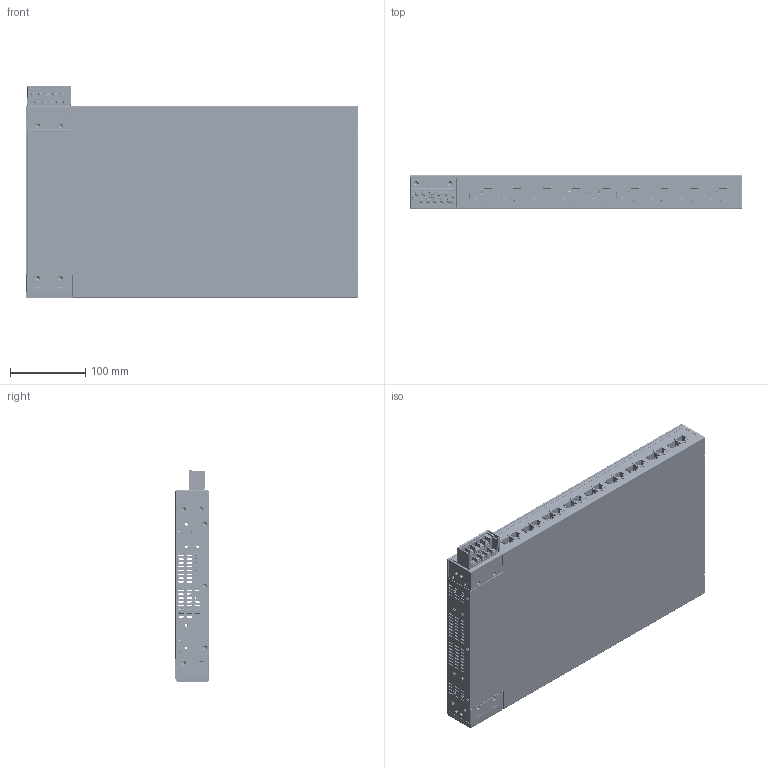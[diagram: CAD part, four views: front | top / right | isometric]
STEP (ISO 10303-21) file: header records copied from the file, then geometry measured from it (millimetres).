
FILE_DESCRIPTION((''),'2;1');
FILE_NAME('PT-7509_R','2010-09-24T',('Chialu_Chang'),(''),'PRO/ENGINEER BY PARAMETRIC TECHNOLOGY CORPORATION, 2004440','PRO/ENGINEER BY PARAMETRIC TECHNOLOGY CORPORATION, 2004440','');
FILE_SCHEMA(('CONFIG_CONTROL_DESIGN'));
Products named in the file (1): PT-7509_R
Bounding box: 440.3 x 44 x 281.1 mm (x, y, z)
Surface area: 1166168.4 mm2 (no closed solid volume)
Topology: 0 solids, 277 shells, 9385 faces, 24016 edges, 15528 vertices
Faces by surface type: plane 6197, cylinder 2254, cone 740, torus 162, bspline 32
Entity records: 285763 total; most frequent: CARTESIAN_POINT 52024, DIRECTION 48650, ORIENTED_EDGE 47390, EDGE_CURVE 23934, VECTOR 17112, LINE 17112, AXIS2_PLACEMENT_3D 15769, VERTEX_POINT 15528
